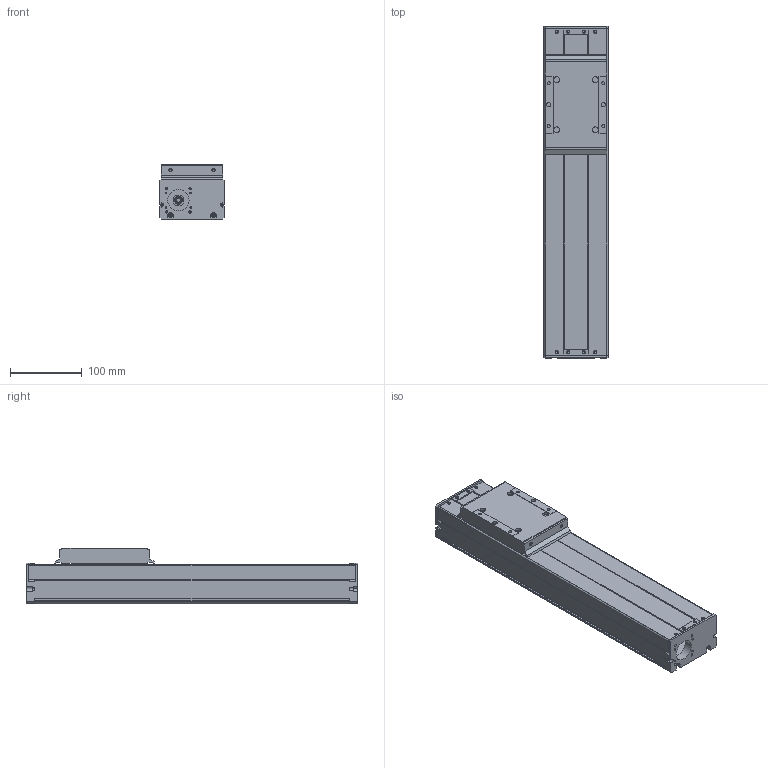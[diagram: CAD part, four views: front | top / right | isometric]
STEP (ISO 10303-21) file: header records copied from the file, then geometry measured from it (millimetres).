
FILE_DESCRIPTION (( 'STEP AP214' ), '1' );
FILE_NAME ('HZMotion TKS90-200A1F0.STEP', '2021-09-15T10:34:34', ( 'AutoBVT' ), ( 'Microsoft' ), 'SwSTEP 2.0', 'SolidWorks 2020', '' );
FILE_SCHEMA (( 'AUTOMOTIVE_DESIGN' ));
Length unit declared in the file: millimetre
Products named in the file (3): HZMotion TKS90-200A1F0; A1F0-200-1; 200-2
Assembly tree (2 placements, depth 2):
  HZMotion TKS90-200A1F0
    200-2
    A1F0-200-1
Bounding box: 90 x 464 x 78 mm (x, y, z)
Volume: 988068.7 mm3; surface area: 347114.2 mm2
Topology: 2 solids, 6 shells, 510 faces, 1319 edges, 850 vertices
Faces by surface type: plane 267, cylinder 207, cone 32, torus 4
Entity records: 15633 total; most frequent: DIRECTION 2769, CARTESIAN_POINT 2660, ORIENTED_EDGE 2590, EDGE_CURVE 1295, AXIS2_PLACEMENT_3D 959, VECTOR 851, LINE 851, VERTEX_POINT 850
